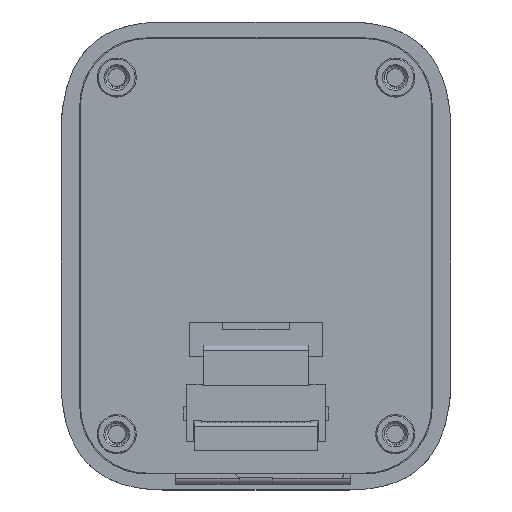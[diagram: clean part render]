
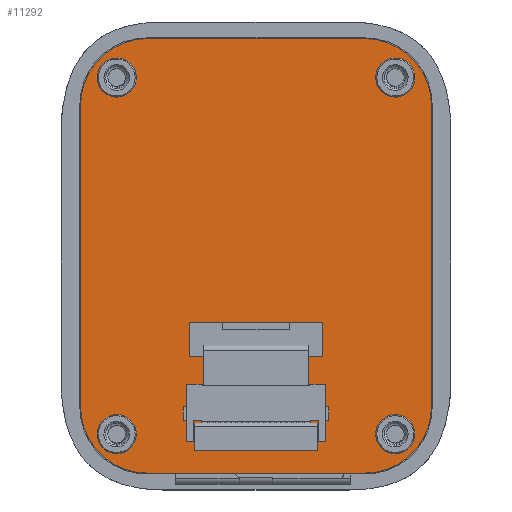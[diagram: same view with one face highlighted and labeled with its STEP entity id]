
A CAD part, top view. The second image highlights one B-rep face of the part: STEP entity #11292.
In plain terms, the highlighted planar face has unit normal (0, 0, 1).
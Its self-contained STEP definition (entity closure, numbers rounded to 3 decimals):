
#10757=CARTESIAN_POINT('',(9.75,13.5,1.2));
#10758=DIRECTION('',(0.,0.,1.));
#10759=DIRECTION('',(1.,0.,0.));
#10760=AXIS2_PLACEMENT_3D('',#10757,#10758,#10759);
#10765=DIRECTION('',(0.,1.,0.));
#10766=VECTOR('',#10765,27.);
#10767=CARTESIAN_POINT('',(15.75,-13.5,1.2));
#10768=LINE('',#10767,#10766);
#10772=CARTESIAN_POINT('',(9.75,-13.5,1.2));
#10773=DIRECTION('',(0.,0.,1.));
#10774=DIRECTION('',(0.,-1.,0.));
#10775=AXIS2_PLACEMENT_3D('',#10772,#10773,#10774);
#10780=DIRECTION('',(1.,0.,0.));
#10781=VECTOR('',#10780,19.5);
#10782=CARTESIAN_POINT('',(-9.75,-19.5,1.2));
#10783=LINE('',#10782,#10781);
#10787=CARTESIAN_POINT('',(-9.75,-13.5,1.2));
#10788=DIRECTION('',(0.,0.,1.));
#10789=DIRECTION('',(-1.,0.,0.));
#10790=AXIS2_PLACEMENT_3D('',#10787,#10788,#10789);
#10795=DIRECTION('',(0.,-1.,0.));
#10796=VECTOR('',#10795,27.);
#10797=CARTESIAN_POINT('',(-15.75,13.5,1.2));
#10798=LINE('',#10797,#10796);
#10802=CARTESIAN_POINT('',(-9.75,13.5,1.2));
#10803=DIRECTION('',(0.,0.,1.));
#10804=DIRECTION('',(0.,1.,0.));
#10805=AXIS2_PLACEMENT_3D('',#10802,#10803,#10804);
#10810=DIRECTION('',(-1.,0.,0.));
#10811=VECTOR('',#10810,19.5);
#10812=CARTESIAN_POINT('',(9.75,19.5,1.2));
#10813=LINE('',#10812,#10811);
#10817=CARTESIAN_POINT('',(12.5,16.,1.2));
#10818=DIRECTION('',(0.,0.,1.));
#10819=DIRECTION('',(0.,-1.,0.));
#10820=AXIS2_PLACEMENT_3D('',#10817,#10818,#10819);
#10825=CARTESIAN_POINT('',(12.5,16.,1.2));
#10826=DIRECTION('',(0.,0.,1.));
#10827=DIRECTION('',(0.,1.,0.));
#10828=AXIS2_PLACEMENT_3D('',#10825,#10826,#10827);
#10833=CARTESIAN_POINT('',(12.5,-16.,1.2));
#10834=DIRECTION('',(0.,0.,1.));
#10835=DIRECTION('',(0.,-1.,0.));
#10836=AXIS2_PLACEMENT_3D('',#10833,#10834,#10835);
#10841=CARTESIAN_POINT('',(12.5,-16.,1.2));
#10842=DIRECTION('',(0.,0.,1.));
#10843=DIRECTION('',(0.,1.,0.));
#10844=AXIS2_PLACEMENT_3D('',#10841,#10842,#10843);
#10849=CARTESIAN_POINT('',(-12.5,16.,1.2));
#10850=DIRECTION('',(0.,0.,1.));
#10851=DIRECTION('',(0.,-1.,0.));
#10852=AXIS2_PLACEMENT_3D('',#10849,#10850,#10851);
#10857=CARTESIAN_POINT('',(-12.5,16.,1.2));
#10858=DIRECTION('',(0.,0.,1.));
#10859=DIRECTION('',(0.,1.,0.));
#10860=AXIS2_PLACEMENT_3D('',#10857,#10858,#10859);
#10865=CARTESIAN_POINT('',(-12.5,-16.,1.2));
#10866=DIRECTION('',(0.,0.,1.));
#10867=DIRECTION('',(0.,-1.,0.));
#10868=AXIS2_PLACEMENT_3D('',#10865,#10866,#10867);
#10873=CARTESIAN_POINT('',(-12.5,-16.,1.2));
#10874=DIRECTION('',(0.,0.,1.));
#10875=DIRECTION('',(0.,1.,0.));
#10876=AXIS2_PLACEMENT_3D('',#10873,#10874,#10875);
#10881=DIRECTION('',(1.,0.,0.));
#10882=VECTOR('',#10881,12.);
#10883=CARTESIAN_POINT('',(-6.,-9.,1.2));
#10884=LINE('',#10883,#10882);
#10888=DIRECTION('',(0.,1.,0.));
#10889=VECTOR('',#10888,3.);
#10890=CARTESIAN_POINT('',(6.,-9.,1.2));
#10891=LINE('',#10890,#10889);
#10895=DIRECTION('',(-1.,0.,0.));
#10896=VECTOR('',#10895,12.);
#10897=CARTESIAN_POINT('',(6.,-6.,1.2));
#10898=LINE('',#10897,#10896);
#10902=DIRECTION('',(0.,-1.,0.));
#10903=VECTOR('',#10902,3.);
#10904=CARTESIAN_POINT('',(-6.,-6.,1.2));
#10905=LINE('',#10904,#10903);
#11009=CARTESIAN_POINT('',(15.75,13.5,1.2));
#11010=CARTESIAN_POINT('',(9.75,19.5,1.2));
#11011=VERTEX_POINT('',#11009);
#11012=VERTEX_POINT('',#11010);
#11013=CARTESIAN_POINT('',(-9.75,19.5,1.2));
#11014=VERTEX_POINT('',#11013);
#11015=CARTESIAN_POINT('',(-15.75,13.5,1.2));
#11016=VERTEX_POINT('',#11015);
#11017=CARTESIAN_POINT('',(-15.75,-13.5,1.2));
#11018=VERTEX_POINT('',#11017);
#11019=CARTESIAN_POINT('',(-9.75,-19.5,1.2));
#11020=VERTEX_POINT('',#11019);
#11021=CARTESIAN_POINT('',(9.75,-19.5,1.2));
#11022=VERTEX_POINT('',#11021);
#11023=CARTESIAN_POINT('',(15.75,-13.5,1.2));
#11024=VERTEX_POINT('',#11023);
#11029=CARTESIAN_POINT('',(12.5,14.9,1.2));
#11030=CARTESIAN_POINT('',(12.5,17.1,1.2));
#11031=VERTEX_POINT('',#11029);
#11032=VERTEX_POINT('',#11030);
#11045=CARTESIAN_POINT('',(12.5,-17.1,1.2));
#11046=CARTESIAN_POINT('',(12.5,-14.9,1.2));
#11047=VERTEX_POINT('',#11045);
#11048=VERTEX_POINT('',#11046);
#11049=CARTESIAN_POINT('',(-12.5,14.9,1.2));
#11050=CARTESIAN_POINT('',(-12.5,17.1,1.2));
#11051=VERTEX_POINT('',#11049);
#11052=VERTEX_POINT('',#11050);
#11053=CARTESIAN_POINT('',(-12.5,-17.1,1.2));
#11054=CARTESIAN_POINT('',(-12.5,-14.9,1.2));
#11055=VERTEX_POINT('',#11053);
#11056=VERTEX_POINT('',#11054);
#11065=CARTESIAN_POINT('',(-6.,-9.,1.2));
#11066=CARTESIAN_POINT('',(6.,-9.,1.2));
#11067=VERTEX_POINT('',#11065);
#11068=VERTEX_POINT('',#11066);
#11069=CARTESIAN_POINT('',(6.,-6.,1.2));
#11070=VERTEX_POINT('',#11069);
#11071=CARTESIAN_POINT('',(-6.,-6.,1.2));
#11072=VERTEX_POINT('',#11071);
#11243=CARTESIAN_POINT('',(0.,0.,1.2));
#11244=DIRECTION('',(0.,0.,1.));
#11245=DIRECTION('',(0.,-1.,0.));
#11246=AXIS2_PLACEMENT_3D('',#11243,#11244,#11245);
#11247=PLANE('',#11246);
#11248=ORIENTED_EDGE('',*,*,#11139,.F.);
#11249=ORIENTED_EDGE('',*,*,#11154,.F.);
#11250=ORIENTED_EDGE('',*,*,#11168,.F.);
#11251=ORIENTED_EDGE('',*,*,#11182,.F.);
#11252=ORIENTED_EDGE('',*,*,#11196,.F.);
#11253=ORIENTED_EDGE('',*,*,#11210,.F.);
#11254=ORIENTED_EDGE('',*,*,#11224,.F.);
#11255=ORIENTED_EDGE('',*,*,#11237,.F.);
#11256=EDGE_LOOP('',(#11248,#11249,#11250,#11251,#11252,#11253,#11254,#11255));
#11257=FACE_OUTER_BOUND('',#11256,.F.);
#11259=ORIENTED_EDGE('',*,*,#11258,.T.);
#11261=ORIENTED_EDGE('',*,*,#11260,.T.);
#11262=EDGE_LOOP('',(#11259,#11261));
#11263=FACE_BOUND('',#11262,.F.);
#11265=ORIENTED_EDGE('',*,*,#11264,.T.);
#11267=ORIENTED_EDGE('',*,*,#11266,.T.);
#11268=EDGE_LOOP('',(#11265,#11267));
#11269=FACE_BOUND('',#11268,.F.);
#11271=ORIENTED_EDGE('',*,*,#11270,.T.);
#11273=ORIENTED_EDGE('',*,*,#11272,.T.);
#11274=EDGE_LOOP('',(#11271,#11273));
#11275=FACE_BOUND('',#11274,.F.);
#11277=ORIENTED_EDGE('',*,*,#11276,.T.);
#11279=ORIENTED_EDGE('',*,*,#11278,.T.);
#11280=EDGE_LOOP('',(#11277,#11279));
#11281=FACE_BOUND('',#11280,.F.);
#11283=ORIENTED_EDGE('',*,*,#11282,.T.);
#11285=ORIENTED_EDGE('',*,*,#11284,.T.);
#11287=ORIENTED_EDGE('',*,*,#11286,.T.);
#11289=ORIENTED_EDGE('',*,*,#11288,.T.);
#11290=EDGE_LOOP('',(#11283,#11285,#11287,#11289));
#11291=FACE_BOUND('',#11290,.F.);
#11292=ADVANCED_FACE('',(#11257,#11263,#11269,#11275,#11281,#11291),#11247,.T.);
#10761=CIRCLE('',#10760,6.);
#10776=CIRCLE('',#10775,6.);
#10791=CIRCLE('',#10790,6.);
#10806=CIRCLE('',#10805,6.);
#10821=CIRCLE('',#10820,1.1);
#10829=CIRCLE('',#10828,1.1);
#10837=CIRCLE('',#10836,1.1);
#10845=CIRCLE('',#10844,1.1);
#10853=CIRCLE('',#10852,1.1);
#10861=CIRCLE('',#10860,1.1);
#10869=CIRCLE('',#10868,1.1);
#10877=CIRCLE('',#10876,1.1);
#11139=EDGE_CURVE('',#11011,#11012,#10761,.T.);
#11154=EDGE_CURVE('',#11024,#11011,#10768,.T.);
#11168=EDGE_CURVE('',#11022,#11024,#10776,.T.);
#11182=EDGE_CURVE('',#11020,#11022,#10783,.T.);
#11196=EDGE_CURVE('',#11018,#11020,#10791,.T.);
#11210=EDGE_CURVE('',#11016,#11018,#10798,.T.);
#11224=EDGE_CURVE('',#11014,#11016,#10806,.T.);
#11237=EDGE_CURVE('',#11012,#11014,#10813,.T.);
#11258=EDGE_CURVE('',#11031,#11032,#10821,.T.);
#11260=EDGE_CURVE('',#11032,#11031,#10829,.T.);
#11264=EDGE_CURVE('',#11047,#11048,#10837,.T.);
#11266=EDGE_CURVE('',#11048,#11047,#10845,.T.);
#11270=EDGE_CURVE('',#11051,#11052,#10853,.T.);
#11272=EDGE_CURVE('',#11052,#11051,#10861,.T.);
#11276=EDGE_CURVE('',#11055,#11056,#10869,.T.);
#11278=EDGE_CURVE('',#11056,#11055,#10877,.T.);
#11282=EDGE_CURVE('',#11067,#11068,#10884,.T.);
#11284=EDGE_CURVE('',#11068,#11070,#10891,.T.);
#11286=EDGE_CURVE('',#11070,#11072,#10898,.T.);
#11288=EDGE_CURVE('',#11072,#11067,#10905,.T.);
